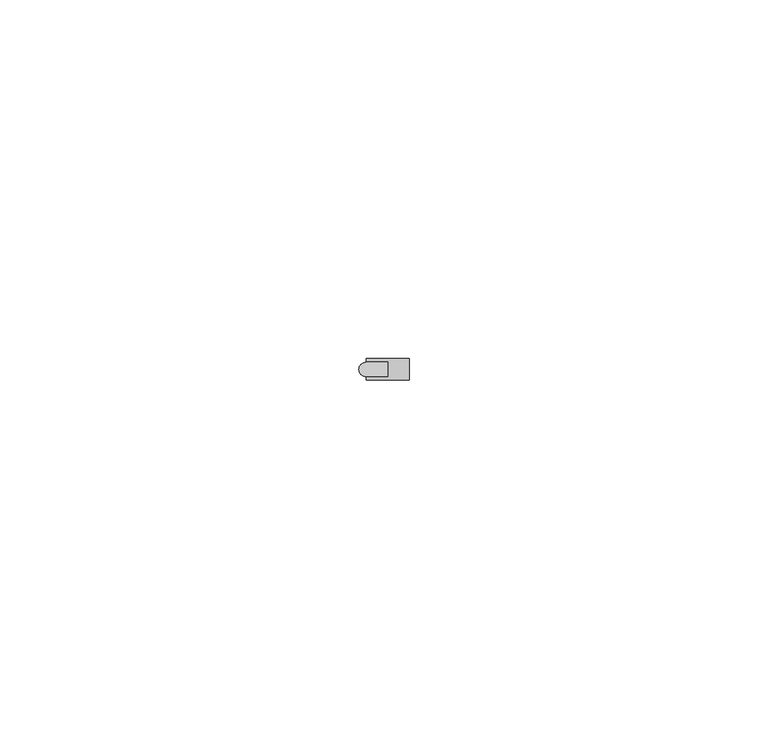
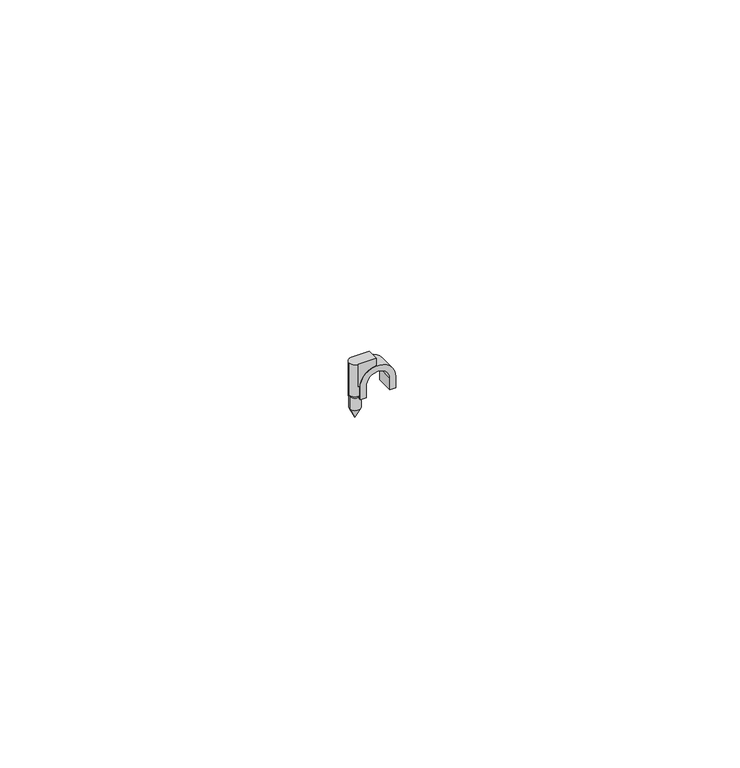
"""IFC4 building model written with IfcOpenShell, lengths in millimetres: cable carrier fitting geometry, КНС_СкобаПластиковаяСГвоздем_DKC : д.3 - 4мм."""

from ifc_helpers import new_model, si_unit, point, frame, frame_2d, origin, place, context, project, spatial, polyline, circle_curve, trimmed, segment, composite_curve, outline, extrude, source, transform, mapped, element, save
from ifc_brep_helpers import plane_surface, cylinder_surface, revolved_surface, advanced_brep


def cable_carrier_fitting_d82fc51b(model_context):
    return source(origin(), model_context, "Body", "SolidModel", [
        advanced_brep(
        [(-2.1, 0.0, 0.0), (-3.9, 0.0, 0.0), (-3.0, 0.0, 0.0), (-2.1, 0.0, -2.2), (-3.9, 0.0, -2.2), (-3.0, 0.0, -4.0)],
        [
            (0, 1, circle_curve(frame((-3.0, 0.0, 0.0), z_axis=(0.0, 0.0, 1.0), x_axis=(-1.0, 0.0, 0.0)), 0.9)),
            (1, 2),
            (2, 0),
            (1, 0, circle_curve(frame((-3.0, 0.0, 0.0), z_axis=(0.0, 0.0, 1.0), x_axis=(-1.0, 0.0, 0.0)), 0.9)),
            (3, 4, circle_curve(frame((-3.0, 0.0, -2.2), z_axis=(0.0, 0.0, 1.0), x_axis=(-1.0, 0.0, 0.0)), 0.9)),
            (4, 1),
            (0, 3),
            (4, 3, circle_curve(frame((-3.0, 0.0, -2.2), z_axis=(0.0, 0.0, 1.0), x_axis=(-1.0, 0.0, 0.0)), 0.9)),
            (5, 4),
            (3, 5),
        ],
        [
            plane_surface(frame((-3.0, 0.0, 0.0), z_axis=(0.0, 0.0, 1.0), x_axis=(-1.0, 0.0, 0.0))),
            cylinder_surface(frame((-3.0, 0.0, 17.2919306), z_axis=(0.0, 0.0, -1.0), x_axis=(-1.0, 0.0, 0.0)), 0.9),
            revolved_surface(polyline([(-3.9, 0.0, -2.2), (-3.0, 0.0, -4.0)]), (-3.0, 0.0, 17.2919306), (0.0, 0.0, -1.0)),
        ],
        [
            (0, [[1, 2, 3]]),
            (0, [[4, -3, -2]]),
            (1, [[5, 6, -1, 7]]),
            (1, [[8, -7, -4, -6]]),
            (2, [[9, -5, 10]]),
            (2, [[-10, -8, -9]]),
        ],
    ),
        advanced_brep(
        [(-2.0, -1.0, 2.0), (0.0, -1.0, 4.0), (0.0, -1.0, 6.0), (-3.0, -1.0, 6.0), (-3.0, -1.0, 2.0), (-2.0, 1.0, 2.0), (-3.0, 1.0, 2.0), (-3.0, 1.0, 6.0), (0.0, 1.0, 6.0), (0.0, 1.0, 4.0), (-2.0, 0.0, 2.0), (-4.0, 0.0, 6.0), (-2.0, 0.0, 0.0), (-4.0, 0.0, 0.0), (-3.0, 0.0, 0.0)],
        [
            (0, 1, circle_curve(frame((0.0, -1.0, 2.0), z_axis=(0.0, 1.0, 0.0), x_axis=(1.0, 0.0, 0.0)), 2.0)),
            (1, 2),
            (2, 3),
            (3, 4),
            (4, 0),
            (5, 6),
            (6, 7),
            (7, 8),
            (8, 9),
            (9, 5, circle_curve(frame((0.0, 1.0, 2.0), z_axis=(0.0, -1.0, 0.0), x_axis=(1.0, 0.0, 0.0)), 2.0)),
            (0, 10),
            (10, 5),
            (9, 1),
            (8, 2),
            (7, 11, circle_curve(frame((-3.0, 0.0, 6.0), z_axis=(0.0, 0.0, 1.0), x_axis=(-1.0, 0.0, 0.0)), 1.0)),
            (11, 3, circle_curve(frame((-3.0, 0.0, 6.0), z_axis=(0.0, 0.0, 1.0), x_axis=(-1.0, 0.0, 0.0)), 1.0)),
            (4, 10, circle_curve(frame((-3.0, 0.0, 2.0), z_axis=(0.0, 0.0, 1.0), x_axis=(-1.0, 0.0, 0.0)), 1.0)),
            (10, 6, circle_curve(frame((-3.0, 0.0, 2.0), z_axis=(0.0, 0.0, 1.0), x_axis=(-1.0, 0.0, 0.0)), 1.0)),
            (12, 13, circle_curve(frame((-3.0, 0.0, 0.0), z_axis=(0.0, 0.0, 1.0), x_axis=(-1.0, 0.0, 0.0)), 1.0)),
            (13, 11),
            (10, 12),
            (13, 12, circle_curve(frame((-3.0, 0.0, 0.0), z_axis=(0.0, 0.0, 1.0), x_axis=(-1.0, 0.0, 0.0)), 1.0)),
            (12, 14),
            (14, 13),
        ],
        [
            plane_surface(frame((2.0, -1.0, 2.0), z_axis=(0.0, -1.0, 0.0), x_axis=(0.0, 0.0, -1.0))),
            plane_surface(frame((2.0, 1.0, 2.0), z_axis=(0.0, 1.0, 0.0), x_axis=(0.0, 0.0, 1.0))),
            revolved_surface(polyline([(2.0, 1.0, 2.0), (2.0, -1.0, 2.0)]), (0.0, 1.0, 2.0), (0.0, 1.0, 0.0)),
            plane_surface(frame((0.0, -1.0, 4.0), z_axis=(1.0, 0.0, 0.0), x_axis=(0.0, 1.0, 0.0))),
            plane_surface(frame((0.0, -1.0, 6.0), z_axis=(0.0, 0.0, 1.0), x_axis=(0.0, 1.0, 0.0))),
            plane_surface(frame((-3.0, -1.0, 2.0), z_axis=(0.0, 0.0, -1.0), x_axis=(0.0, 1.0, 0.0))),
            cylinder_surface(frame((-3.0, 0.0, 17.2919306), z_axis=(0.0, 0.0, -1.0), x_axis=(-1.0, 0.0, 0.0)), 1.0),
            plane_surface(frame((-3.0, 0.0, 0.0), z_axis=(0.0, 0.0, -1.0), x_axis=(-1.0, 0.0, 0.0))),
        ],
        [
            (0, [[1, 2, 3, 4, 5]]),
            (1, [[6, 7, 8, 9, 10]]),
            (2, [[-1, 11, 12, -10, 13]]),
            (3, [[-2, -13, -9, 14]]),
            (4, [[-3, -14, -8, 15, 16]]),
            (5, [[-5, 17, -11]]),
            (5, [[-6, -12, 18]]),
            (6, [[19, 20, -15, -7, -18, 21]]),
            (6, [[-20, 22, -21, -17, -4, -16]]),
            (7, [[-19, 23, 24]]),
            (7, [[-22, -24, -23]]),
        ],
    ),
        extrude(outline(composite_curve([segment(polyline([(2.0, 2.0), (0.0, 2.0), (0.0, 3.0), (2.0, 3.0)]), True, "CONTINUOUS"), segment(trimmed(circle_curve(frame_2d((2.0, 0.0)), 3.0), [point((2.0, 3.0))], [point((2.0, -3.0))], False, "CARTESIAN"), True, "CONTINUOUS"), segment(polyline([(2.0, -3.0), (0.0, -3.0), (0.0, -2.0), (2.0, -2.0)]), True, "CONTINUOUS"), segment(trimmed(circle_curve(frame_2d((2.0, 0.0)), 2.0), [point((2.0, -2.0))], [point((2.0, 2.0))], True, "CARTESIAN"), True, "CONTINUOUS")], self_intersect=False)), frame((0.0, -1.5, 0.0), z_axis=(0.0, 1.0, 0.0), x_axis=(0.0, 0.0, 1.0)), (0.0, 0.0, 1.0), 3.0),
    ])


if __name__ == "__main__":
    model = new_model("IFC4")
    model_context = context("Model", 3, world=origin())
    ifc_project = project(units=[si_unit("LENGTHUNIT", "METRE", prefix="MILLI")], contexts=[model_context])
    site = spatial("IfcSite", under=ifc_project)
    building = spatial("IfcBuilding", under=site)
    placement = place(None, origin())
    cable_carrier_fitting_shape = cable_carrier_fitting_d82fc51b(model_context)
    element("IfcCableCarrierFitting", 1, ObjectType="КНС_СкобаПластиковаяСГвоздем_DKC : д.3 - 4мм", at=placement, inside=building, context=model_context, shape_type="MappedRepresentation", body=[
        mapped(cable_carrier_fitting_shape, transform((0.0, 0.0, 0.0), x_axis=(1.0, 0.0, 0.0), y_axis=(0.0, 1.0, 0.0), z_axis=(0.0, 0.0, 1.0))),
    ])
    save(model, "model.ifc")
